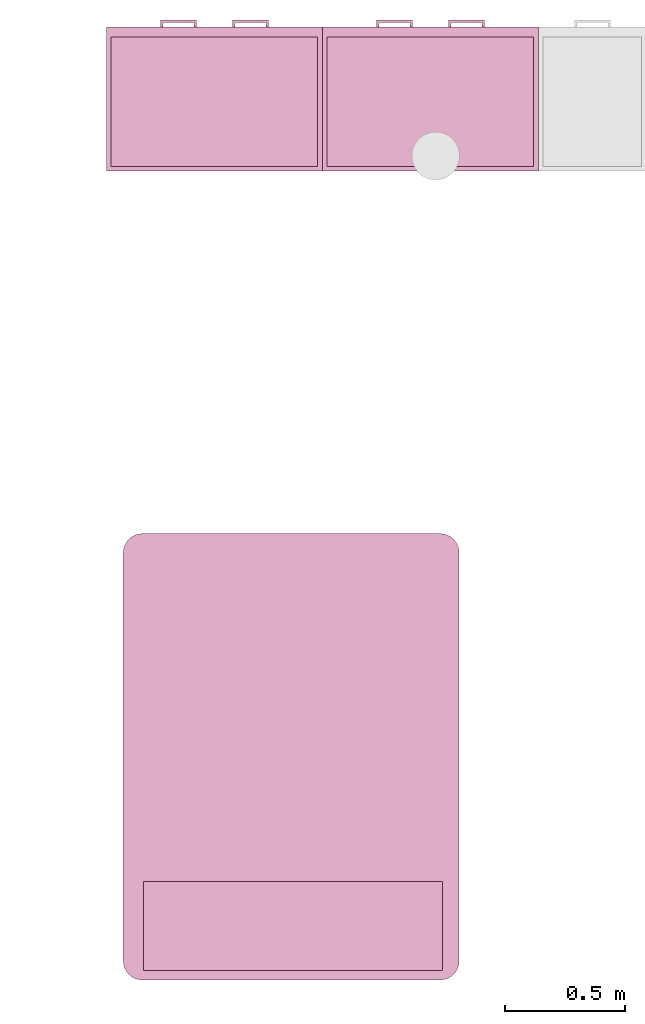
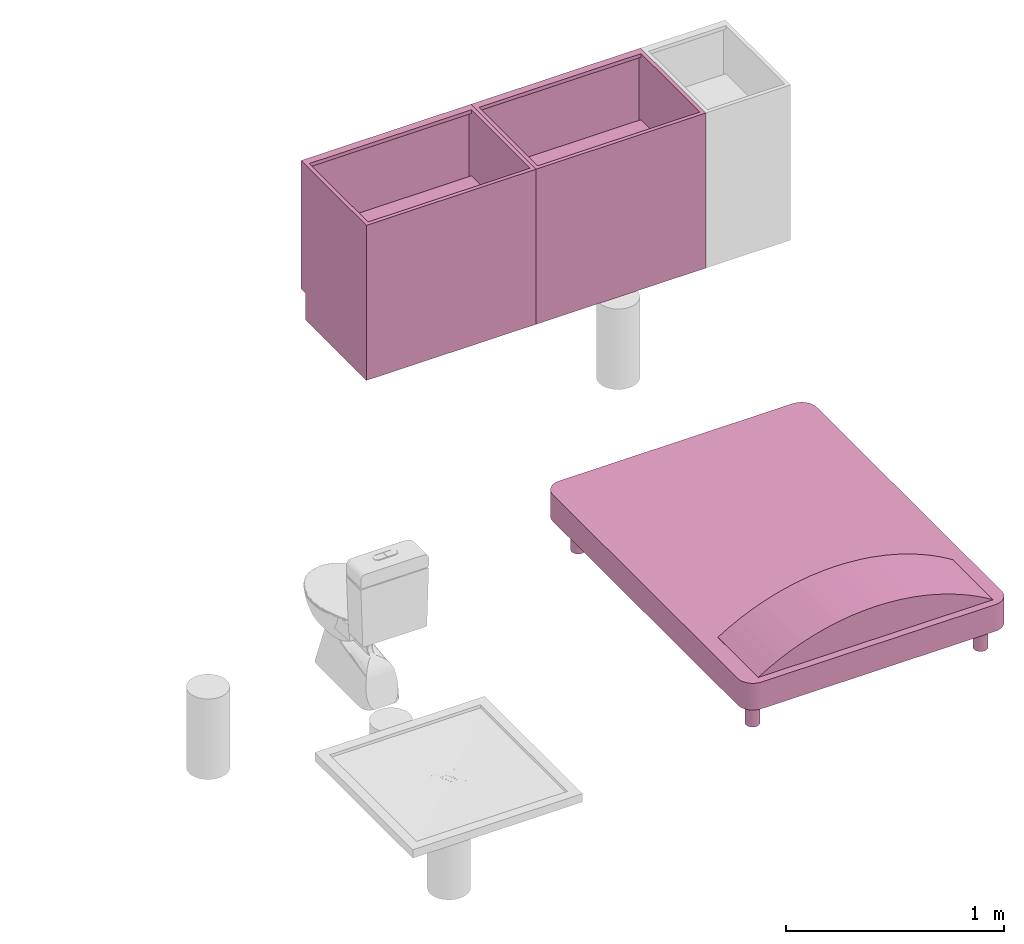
# One storey, part 1 of 3: 3 furnishings.
"""IFC2X3 building model written with IfcOpenShell, lengths in metres."""

from ifc_helpers import new_model, entity, si_unit, converted_unit, derived_unit, direction, frame, frame_2d, origin, origin_2d_with_axis, place, context, subcontext, project, spatial, polyline, circle_curve, parameter, trimmed, segment, composite_curve, circle, outline, extrude, faceted_brep, source, transform, mapped, material, type_object, type_shapes, element, save


model = new_model("IFC2X3")

# Units and contexts
model_context = context("Model", 3, precision=1e-05, world=origin(), true_north=direction((6.123031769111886e-17, 1.0)))
body_context = subcontext(model_context, "Body", "Model", "MODEL_VIEW")
ifc_project = project(units=[si_unit("LENGTHUNIT", "METRE"), si_unit("AREAUNIT", "SQUARE_METRE"), si_unit("VOLUMEUNIT", "CUBIC_METRE"), converted_unit("PLANEANGLEUNIT", "DEGREE", entity("IfcRatioMeasure", 0.017453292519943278), si_unit("PLANEANGLEUNIT", "RADIAN"), dimensions=[0, 0, 0, 0, 0, 0, 0]), si_unit("MASSUNIT", "GRAM", prefix="KILO"), derived_unit("MASSDENSITYUNIT", [(si_unit("MASSUNIT", "GRAM", prefix="KILO"), 1), (si_unit("LENGTHUNIT", "METRE"), -3)]), derived_unit("IONCONCENTRATIONUNIT", [(si_unit("MASSUNIT", "GRAM", prefix="KILO"), 1), (si_unit("LENGTHUNIT", "METRE"), -3)]), derived_unit("MOMENTOFINERTIAUNIT", [(si_unit("LENGTHUNIT", "METRE"), 4)]), si_unit("TIMEUNIT", "SECOND"), si_unit("FREQUENCYUNIT", "HERTZ"), si_unit("THERMODYNAMICTEMPERATUREUNIT", "DEGREE_CELSIUS"), derived_unit("THERMALTRANSMITTANCEUNIT", [(si_unit("MASSUNIT", "GRAM", prefix="KILO"), 1), (si_unit("THERMODYNAMICTEMPERATUREUNIT", "KELVIN"), -1), (si_unit("TIMEUNIT", "SECOND"), -3)]), derived_unit("THERMALCONDUCTANCEUNIT", [(si_unit("MASSUNIT", "GRAM", prefix="KILO"), 1), (si_unit("THERMODYNAMICTEMPERATUREUNIT", "KELVIN"), -1), (si_unit("TIMEUNIT", "SECOND"), -3), (si_unit("LENGTHUNIT", "METRE"), 1)]), derived_unit("VOLUMETRICFLOWRATEUNIT", [(si_unit("LENGTHUNIT", "METRE"), 3), (si_unit("TIMEUNIT", "SECOND"), -1)]), derived_unit("MASSFLOWRATEUNIT", [(si_unit("MASSUNIT", "GRAM", prefix="KILO"), 1), (si_unit("TIMEUNIT", "SECOND"), -1)]), derived_unit("ROTATIONALFREQUENCYUNIT", [(si_unit("TIMEUNIT", "SECOND"), -1)]), si_unit("ELECTRICCURRENTUNIT", "AMPERE"), si_unit("ELECTRICVOLTAGEUNIT", "VOLT"), si_unit("POWERUNIT", "WATT"), si_unit("FORCEUNIT", "NEWTON", prefix="KILO"), si_unit("ILLUMINANCEUNIT", "LUX"), si_unit("LUMINOUSFLUXUNIT", "LUMEN"), si_unit("LUMINOUSINTENSITYUNIT", "CANDELA"), derived_unit("USERDEFINED", [(si_unit("MASSUNIT", "GRAM", prefix="KILO"), -1), (si_unit("LENGTHUNIT", "METRE"), -2), (si_unit("TIMEUNIT", "SECOND"), 3), (si_unit("LUMINOUSFLUXUNIT", "LUMEN"), 1)]), derived_unit("USERDEFINED", [(si_unit("MASSUNIT", "GRAM", prefix="KILO"), 1), (si_unit("TIMEUNIT", "SECOND"), -3), (si_unit("LENGTHUNIT", "METRE"), 3), (si_unit("ELECTRICCURRENTUNIT", "AMPERE"), -2)]), derived_unit("SOUNDPOWERUNIT", [(si_unit("MASSUNIT", "GRAM", prefix="KILO"), 1), (si_unit("TIMEUNIT", "SECOND"), -3), (si_unit("LENGTHUNIT", "METRE"), 2)]), derived_unit("SOUNDPRESSUREUNIT", [(si_unit("MASSUNIT", "GRAM", prefix="KILO"), 1), (si_unit("LENGTHUNIT", "METRE"), -1), (si_unit("TIMEUNIT", "SECOND"), -2)]), derived_unit("LINEARVELOCITYUNIT", [(si_unit("LENGTHUNIT", "METRE"), 1), (si_unit("TIMEUNIT", "SECOND"), -1)]), si_unit("PRESSUREUNIT", "PASCAL"), derived_unit("USERDEFINED", [(si_unit("MASSUNIT", "GRAM", prefix="KILO"), 1), (si_unit("LENGTHUNIT", "METRE"), -2), (si_unit("TIMEUNIT", "SECOND"), -2)]), derived_unit("LINEARFORCEUNIT", [(si_unit("MASSUNIT", "GRAM", prefix="KILO"), 1), (si_unit("TIMEUNIT", "SECOND"), -2)]), derived_unit("PLANARFORCEUNIT", [(si_unit("MASSUNIT", "GRAM", prefix="KILO"), 1), (si_unit("LENGTHUNIT", "METRE"), -1), (si_unit("TIMEUNIT", "SECOND"), -2)]), derived_unit("SPECIFICHEATCAPACITYUNIT", [(si_unit("THERMODYNAMICTEMPERATUREUNIT", "KELVIN"), -1), (si_unit("LENGTHUNIT", "METRE"), 2), (si_unit("TIMEUNIT", "SECOND"), -2)]), derived_unit("HEATINGVALUEUNIT", [(si_unit("LENGTHUNIT", "METRE"), 2), (si_unit("TIMEUNIT", "SECOND"), -2)]), derived_unit("VAPORPERMEABILITYUNIT", [(si_unit("LENGTHUNIT", "METRE"), -1), (si_unit("TIMEUNIT", "SECOND"), 1)]), derived_unit("DYNAMICVISCOSITYUNIT", [(si_unit("MASSUNIT", "GRAM", prefix="KILO"), 1), (si_unit("TIMEUNIT", "SECOND"), -1), (si_unit("LENGTHUNIT", "METRE"), -1)]), derived_unit("THERMALEXPANSIONCOEFFICIENTUNIT", [(si_unit("THERMODYNAMICTEMPERATUREUNIT", "KELVIN"), -1)]), derived_unit("MODULUSOFELASTICITYUNIT", [(si_unit("MASSUNIT", "GRAM", prefix="KILO"), 1), (si_unit("LENGTHUNIT", "METRE"), -1), (si_unit("TIMEUNIT", "SECOND"), -2)]), derived_unit("ISOTHERMALMOISTURECAPACITYUNIT", [(si_unit("LENGTHUNIT", "METRE"), 3), (si_unit("MASSUNIT", "GRAM", prefix="KILO"), -1)]), derived_unit("MOISTUREDIFFUSIVITYUNIT", [(si_unit("TIMEUNIT", "SECOND"), -1), (si_unit("LENGTHUNIT", "METRE"), 2)])], contexts=[model_context])

# Site, building, storey, space
site_placement = place(None, frame((1.2553507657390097, -0.6266432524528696, -1.0397761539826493), z_axis=(0.0, 0.0, 1.0), x_axis=(-1.0, 0.0, 0.0)))
site = spatial("IfcSite", under=ifc_project, at=site_placement, Name="Default", CompositionType="ELEMENT")
building_placement = place(site_placement, origin())
building = spatial("IfcBuilding", under=site, at=building_placement, Name="MAISON D'HABITATION", CompositionType="ELEMENT")
storey_placement = place(building_placement, frame((0.0, 0.0, -0.1602238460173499)))
storey = spatial("IfcBuildingStorey", under=building, at=storey_placement, Name="Niveau ...", CompositionType="ELEMENT", Elevation=-0.1602238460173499)
space_placement = place(storey_placement, origin())
space = spatial("IfcSpace", under=storey, at=space_placement, Name="08", CompositionType="ELEMENT", InteriorOrExteriorSpace="INTERNAL")

# Furnishings
ifc_material = material(Name="<Unnamed>")
furniture_type_1 = type_object("IfcFurnitureType", Name="FLOOR CUPBOARD WITH ADJUSTABLE SHELVES - DOUBLE:CUPBOARD - UNDERBENCH", material=ifc_material)
shared_shape_1 = source(origin(), body_context, "Body", "Brep", [
    faceted_brep([(0.12970032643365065, -0.6000000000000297, 0.8199999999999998), (0.12970032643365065, -0.6000000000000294, 0.7999999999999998), (0.11970032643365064, -0.6000000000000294, 0.7999999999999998), (0.11970032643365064, -0.6000000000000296, 0.8199999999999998), (0.12970032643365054, -0.6200000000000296, 0.8199999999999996), (0.12970032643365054, -0.6200000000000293, 0.7999999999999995), (0.25970032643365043, -0.6200000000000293, 0.7999999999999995), (0.2597003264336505, -0.6000000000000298, 0.7999999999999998), (0.2697003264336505, -0.6000000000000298, 0.7999999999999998), (0.26970032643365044, -0.6300000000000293, 0.7999999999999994), (0.11970032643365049, -0.6300000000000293, 0.7999999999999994), (0.11970032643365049, -0.6300000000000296, 0.8199999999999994), (0.26970032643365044, -0.6300000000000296, 0.8199999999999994), (0.2697003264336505, -0.6000000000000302, 0.8199999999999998), (0.2597003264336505, -0.6000000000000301, 0.8199999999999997), (0.25970032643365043, -0.6200000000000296, 0.8199999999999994)], [[[0, 1, 2, 3]], [[1, 0, 4, 5]], [[2, 1, 5, 6, 7, 8, 9, 10]], [[3, 2, 10, 11]], [[0, 3, 11, 12, 13, 14, 15, 4]], [[5, 4, 15, 6]], [[11, 10, 9, 12]], [[14, 13, 8, 7]], [[6, 15, 14, 7]], [[12, 9, 8, 13]]]),
    faceted_brep([(-0.17029967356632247, -0.6000000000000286, 0.8199999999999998), (-0.17029967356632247, -0.6000000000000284, 0.7999999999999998), (-0.18029967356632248, -0.6000000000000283, 0.7999999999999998), (-0.18029967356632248, -0.6000000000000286, 0.8199999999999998), (-0.17029967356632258, -0.6200000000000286, 0.8199999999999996), (-0.17029967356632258, -0.6200000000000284, 0.7999999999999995), (-0.04029967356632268, -0.6200000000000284, 0.7999999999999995), (-0.040299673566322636, -0.6000000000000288, 0.7999999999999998), (-0.030299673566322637, -0.600000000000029, 0.7999999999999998), (-0.03029967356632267, -0.6300000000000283, 0.7999999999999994), (-0.18029967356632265, -0.6300000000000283, 0.7999999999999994), (-0.18029967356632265, -0.6300000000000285, 0.8199999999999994), (-0.03029967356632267, -0.6300000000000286, 0.8199999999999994), (-0.030299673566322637, -0.6000000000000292, 0.8199999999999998), (-0.040299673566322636, -0.6000000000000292, 0.8199999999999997), (-0.04029967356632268, -0.6200000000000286, 0.8199999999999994)], [[[0, 1, 2, 3]], [[1, 0, 4, 5]], [[2, 1, 5, 6, 7, 8, 9, 10]], [[3, 2, 10, 11]], [[0, 3, 11, 12, 13, 14, 15, 4]], [[5, 4, 15, 6]], [[11, 10, 9, 12]], [[14, 13, 8, 7]], [[6, 15, 14, 7]], [[12, 9, 8, 13]]]),
    faceted_brep([(0.49470032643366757, -0.5799999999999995, 0.8700000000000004), (0.4947003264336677, -0.5799999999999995, 0.14999999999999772), (0.04470032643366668, -0.5799999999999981, 0.14999999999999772), (0.04470032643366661, -0.579999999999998, 0.8699999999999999), (0.4947003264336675, -0.6000000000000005, 0.8700000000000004), (0.04470032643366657, -0.599999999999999, 0.8699999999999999), (0.04470032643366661, -0.599999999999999, 0.14999999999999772), (0.49470032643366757, -0.6000000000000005, 0.14999999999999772)], [[[0, 1, 2, 3]], [[4, 5, 6, 7]], [[5, 4, 0, 3]], [[6, 5, 3, 2]], [[7, 6, 2, 1]], [[4, 7, 1, 0]]]),
    faceted_brep([(0.04470032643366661, -0.5799999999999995, 0.8700000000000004), (0.04470032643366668, -0.5799999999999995, 0.14999999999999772), (-0.40529967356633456, -0.5799999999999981, 0.14999999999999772), (-0.40529967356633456, -0.579999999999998, 0.8700000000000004), (0.04470032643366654, -0.5999999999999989, 0.8700000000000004), (-0.4052996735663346, -0.5999999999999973, 0.8700000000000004), (-0.4052996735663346, -0.5999999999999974, 0.14999999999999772), (0.04470032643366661, -0.5999999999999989, 0.14999999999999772)], [[[0, 1, 2, 3]], [[4, 5, 6, 7]], [[5, 4, 0, 3]], [[6, 5, 3, 2]], [[7, 6, 2, 1]], [[4, 7, 1, 0]]]),
    faceted_brep([(-0.4052996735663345, -0.5799999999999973, 0.14999999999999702), (0.4947003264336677, -0.5800000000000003, 0.14999999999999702), (0.4947003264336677, -0.5800000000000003, 0.8700000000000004), (-0.40529967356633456, -0.5799999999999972, 0.8700000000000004), (-0.3852996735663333, -0.5799999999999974, 0.1699999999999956), (-0.3852996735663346, -0.5799999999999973, 0.8499999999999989), (0.4747003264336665, -0.5800000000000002, 0.8499999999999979), (0.4747003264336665, -0.5800000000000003, 0.1699999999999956), (0.4947003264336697, 0.0, 0.8700000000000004), (-0.4052996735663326, 0.0, 0.8700000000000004), (0.47470032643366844, -0.020000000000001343, 0.8700000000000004), (0.47470032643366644, -0.5600000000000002, 0.8700000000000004), (-0.3852996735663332, -0.5599999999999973, 0.8700000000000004), (-0.3852996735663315, -0.019999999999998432, 0.8700000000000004), (-0.40529967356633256, 0.0, 0.14999999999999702), (0.4947003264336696, 0.0, 0.14999999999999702), (0.47470032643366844, -0.02000000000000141, 0.1699999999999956), (0.4747003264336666, -0.5600000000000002, 0.8499999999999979), (-0.38529967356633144, -0.019999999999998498, 0.1699999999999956), (-0.3852996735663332, -0.5599999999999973, 0.8499999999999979)], [[[0, 1, 2, 3], [4, 5, 6, 7]], [[3, 2, 8, 9], [10, 11, 12, 13]], [[3, 9, 14, 0]], [[1, 0, 14, 15]], [[15, 8, 2, 1]], [[16, 7, 6, 17, 11, 10]], [[4, 7, 16, 18]], [[4, 18, 13, 12, 19, 5]], [[10, 13, 18, 16]], [[8, 15, 14, 9]], [[12, 11, 17, 19]], [[6, 5, 19, 17]]]),
    faceted_brep([(0.4947003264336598, 0.0, 0.14999999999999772), (-0.4052996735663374, 0.0, 0.14999999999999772), (-0.4052996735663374, -0.5600000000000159, 0.14999999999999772), (0.4947003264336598, -0.5600000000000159, 0.14999999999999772), (0.4747003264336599, -0.01999999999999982, 0.14999999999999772), (0.4747003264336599, -0.5400000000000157, 0.14999999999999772), (-0.3852996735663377, -0.5400000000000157, 0.14999999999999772), (-0.38529967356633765, -0.019999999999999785, 0.14999999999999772), (0.4947003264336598, 0.0, 0.0), (0.4947003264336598, -0.5600000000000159, 0.0), (-0.4052996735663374, -0.5600000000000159, 0.0), (-0.4052996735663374, 0.0, 0.0), (0.4747003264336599, -0.01999999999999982, 0.0), (-0.38529967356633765, -0.019999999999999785, 0.0), (-0.3852996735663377, -0.5400000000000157, 0.0), (0.4747003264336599, -0.5400000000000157, 0.0)], [[[0, 1, 2, 3], [4, 5, 6, 7]], [[8, 9, 10, 11], [12, 13, 14, 15]], [[1, 0, 8, 11]], [[2, 1, 11, 10]], [[3, 2, 10, 9]], [[0, 3, 9, 8]], [[5, 4, 12, 15]], [[6, 5, 15, 14]], [[7, 6, 14, 13]], [[4, 7, 13, 12]]]),
    faceted_brep([(0.4747003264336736, -0.56, 0.5000000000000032), (-0.38529967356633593, -0.5599999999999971, 0.5000000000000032), (-0.38529967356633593, -0.5599999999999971, 0.4800000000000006), (0.4747003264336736, -0.56, 0.4800000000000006), (0.47470032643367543, -0.02000000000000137, 0.5000000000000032), (0.47470032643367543, -0.02000000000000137, 0.4800000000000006), (-0.3852996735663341, -0.019999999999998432, 0.4800000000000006), (-0.3852996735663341, -0.019999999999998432, 0.5000000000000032)], [[[0, 1, 2, 3]], [[4, 5, 6, 7]], [[1, 0, 4, 7]], [[2, 1, 7, 6]], [[3, 2, 6, 5]], [[0, 3, 5, 4]]]),
])
type_shapes(furniture_type_1, [shared_shape_1])
for number, where, name in (
    (1, (-3.664567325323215, -0.3738169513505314, 1.1999999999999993), "FLOOR CUPBOARD WITH ADJUSTABLE SHELVES - DOUBLE:CUPBOARD - UNDERBENCH"),
    (2, (-2.764567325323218, -0.3738169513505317, 1.1999999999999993), "FLOOR CUPBOARD WITH ADJUSTABLE SHELVES - DOUBLE:CUPBOARD - UNDERBENCH"),
):
    element("IfcFurnishingElement", number, at=place(space_placement, frame(where)), inside=space, type_object=furniture_type_1, material=ifc_material, Name=name, ObjectType="FLOOR CUPBOARD WITH ADJUSTABLE SHELVES - DOUBLE:CUPBOARD - UNDERBENCH", context=body_context, shape_type="MappedRepresentation", body=[
        mapped(shared_shape_1, transform((0.0, 0.0, 0.0), scale=1.0)),
    ])
furniture_type_2 = type_object("IfcFurnitureType", Name="Lit:Lit", material=ifc_material)
shared_shape_2 = source(origin(), body_context, "Body", "SweptSolid", [
    extrude(circle(Radius=0.03500000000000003, at=frame_2d((4.353457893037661e-32, 1.353583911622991e-16), x_axis=(1.0, 0.0))), frame((0.7049999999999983, -0.6499999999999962, 0.0), z_axis=(0.0, 0.0, 1.0), x_axis=(-1.0, 0.0, 0.0)), (0.0, 0.0, 1.0), 0.14999999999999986),
    extrude(circle(Radius=0.03500000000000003, at=origin_2d_with_axis()), frame((-0.5050000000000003, -0.6499999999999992, 0.0)), (0.0, 0.0, 1.0), 0.14999999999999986),
    extrude(circle(Radius=0.03500000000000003, at=origin_2d_with_axis()), frame((0.704999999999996, 0.950000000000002, 0.0), z_axis=(0.0, 0.0, 1.0), x_axis=(-1.0, 0.0, 0.0)), (0.0, 0.0, 1.0), 0.14999999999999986),
    extrude(circle(Radius=0.03500000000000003, at=origin_2d_with_axis()), frame((-0.5050000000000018, 0.9499999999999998, 0.0)), (0.0, 0.0, 1.0), 0.14999999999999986),
    extrude(outline(composite_curve([segment(polyline([(-0.0004141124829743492, -0.6225000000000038), (0.0004141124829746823, -0.6225000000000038)]), True, "CONTINUOUS"), segment(polyline([(0.0004141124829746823, -0.6225000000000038), (0.0004141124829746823, 0.6225000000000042)]), True, "CONTINUOUS"), segment(polyline([(0.0004141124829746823, 0.6225000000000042), (-0.0004141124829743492, 0.6225000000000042)]), True, "CONTINUOUS"), segment(trimmed(circle_curve(frame_2d((0.9861476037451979, 0.0), x_axis=(0.0, -1.0)), 1.1665377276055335), [parameter(237.74892355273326)], [parameter(302.25107644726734)], True, "PARAMETER"), True, "CONTINUOUS")], self_intersect=False)), frame((0.09249999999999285, 0.650270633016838, 0.30041411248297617), z_axis=(0.0, 1.0, 0.0), x_axis=(0.0, 0.0, -1.0)), (0.0, 0.0, 1.0), 0.37053256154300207),
    extrude(outline(composite_curve([segment(polyline([(-0.6199999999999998, -0.9300000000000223), (0.6200000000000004, -0.9300000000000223)]), True, "CONTINUOUS"), segment(trimmed(circle_curve(frame_2d((0.6200000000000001, -0.8500000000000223), x_axis=(-1.0, 0.0)), 0.08), [parameter(90.00000000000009)], [parameter(180.00000000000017)], True, "PARAMETER"), True, "CONTINUOUS"), segment(polyline([(0.7000000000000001, -0.8500000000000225), (0.6999999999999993, 0.8500000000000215)]), True, "CONTINUOUS"), segment(trimmed(circle_curve(frame_2d((0.6199999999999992, 0.8500000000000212), x_axis=(-1.0, 0.0)), 0.08), [parameter(180.0)], [parameter(269.9999999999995)], True, "PARAMETER"), True, "CONTINUOUS"), segment(polyline([(0.6199999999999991, 0.9300000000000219), (-0.6200000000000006, 0.9300000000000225)]), True, "CONTINUOUS"), segment(trimmed(circle_curve(frame_2d((-0.6200000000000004, 0.8500000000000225), x_axis=(-1.0, 0.0)), 0.08), [parameter(269.9999999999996)], [parameter(359.9999999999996)], True, "PARAMETER"), True, "CONTINUOUS"), segment(polyline([(-0.7, 0.8500000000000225), (-0.6999999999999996, -0.850000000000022)]), True, "CONTINUOUS"), segment(trimmed(circle_curve(frame_2d((-0.6199999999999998, -0.8500000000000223), x_axis=(-1.0, 0.0)), 0.08), [parameter(359.9999999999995)], [parameter(89.99999999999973)], True, "PARAMETER"), True, "CONTINUOUS")], self_intersect=False)), frame((0.09999999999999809, 0.1300000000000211, 0.15000000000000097), z_axis=(0.0, 0.0, 1.0), x_axis=(-1.0, 0.0, 0.0)), (0.0, 0.0, 1.0), 0.14999999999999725),
])
type_shapes(furniture_type_2, [shared_shape_2])
furnishing_placement = place(space_placement, frame((-3.1398669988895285, 1.9361830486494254, 1.1999999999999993)))
element("IfcFurnishingElement", 3, at=furnishing_placement, inside=space, type_object=furniture_type_2, material=ifc_material, Name="Lit:Lit", ObjectType="Lit:Lit", context=body_context, shape_type="MappedRepresentation", body=[
    mapped(shared_shape_2, transform((0.0, 0.0, 0.0), scale=1.0)),
])

save(model, "model.ifc")
